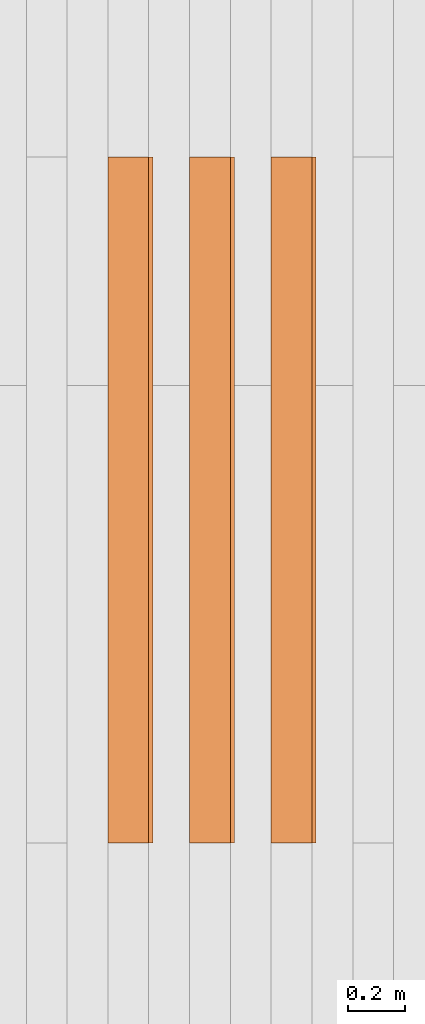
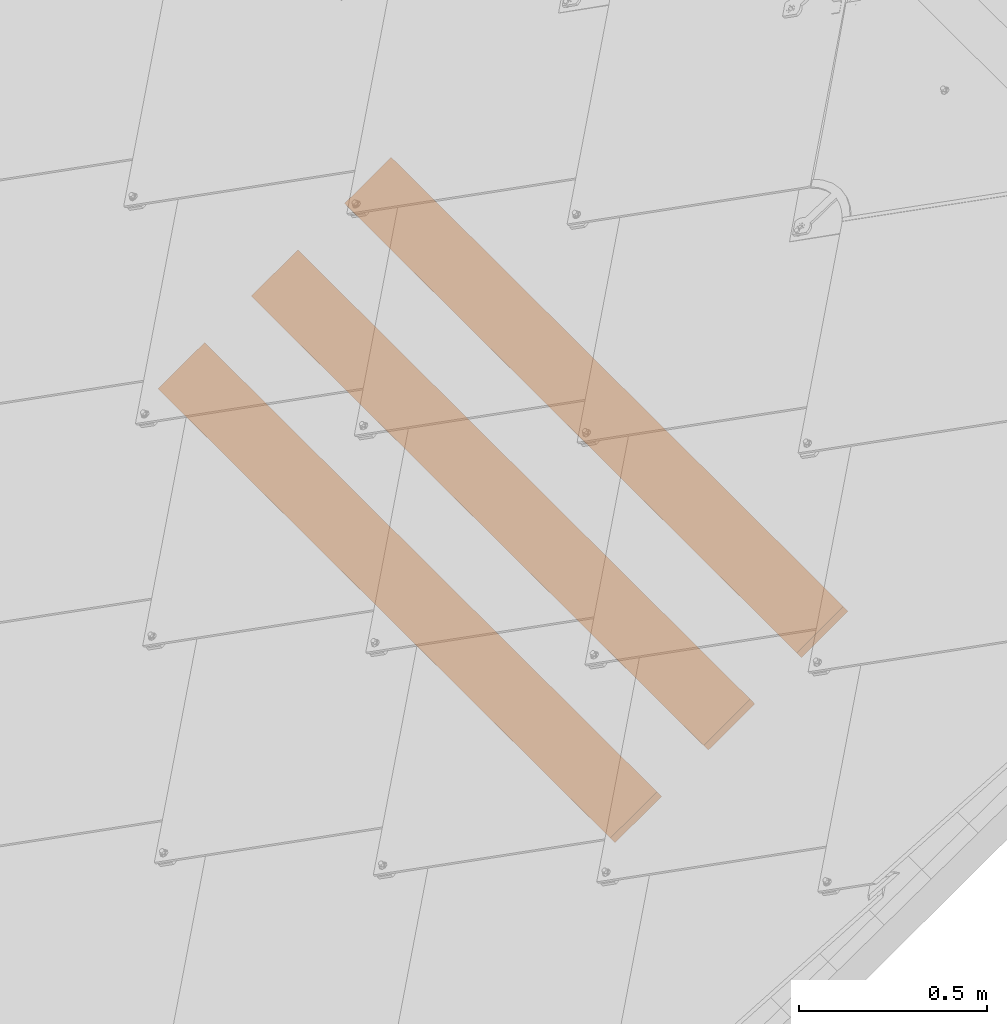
# One storey, part 30 of 151: 3 proxies, 1 element without a shape of its own.
"""IFC2X3 building model written with IfcOpenShell, lengths in millimetres."""

from ifc_helpers import new_model, entity, si_unit, converted_unit, derived_unit, direction, frame, frame_2d, origin, place, context, subcontext, project, spatial, rectangle, extrude, source, transform, mapped, material, type_object, type_shapes, element, aggregate, save


model = new_model("IFC2X3")

# Units and contexts
model_context = context("Model", 3, precision=0.01, world=origin(), true_north=direction((6.12303176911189e-17, 1.0)))
body_context = subcontext(model_context, "Body", "Model", "MODEL_VIEW")
ifc_project = project(units=[si_unit("LENGTHUNIT", "METRE", prefix="MILLI"), si_unit("AREAUNIT", "SQUARE_METRE"), si_unit("VOLUMEUNIT", "CUBIC_METRE"), converted_unit("PLANEANGLEUNIT", "DEGREE", entity("IfcRatioMeasure", 0.0174532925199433), si_unit("PLANEANGLEUNIT", "RADIAN"), dimensions=[0, 0, 0, 0, 0, 0, 0]), si_unit("MASSUNIT", "GRAM", prefix="KILO"), derived_unit("MASSDENSITYUNIT", [(si_unit("MASSUNIT", "GRAM", prefix="KILO"), 1), (si_unit("LENGTHUNIT", "METRE"), -3)]), si_unit("TIMEUNIT", "SECOND"), si_unit("FREQUENCYUNIT", "HERTZ"), si_unit("THERMODYNAMICTEMPERATUREUNIT", "DEGREE_CELSIUS"), derived_unit("THERMALTRANSMITTANCEUNIT", [(si_unit("MASSUNIT", "GRAM", prefix="KILO"), 1), (si_unit("THERMODYNAMICTEMPERATUREUNIT", "KELVIN"), -1), (si_unit("TIMEUNIT", "SECOND"), -3)]), derived_unit("VOLUMETRICFLOWRATEUNIT", [(si_unit("LENGTHUNIT", "METRE"), 3), (si_unit("TIMEUNIT", "SECOND"), -1)]), si_unit("ELECTRICCURRENTUNIT", "AMPERE"), si_unit("ELECTRICVOLTAGEUNIT", "VOLT"), si_unit("POWERUNIT", "WATT"), si_unit("FORCEUNIT", "NEWTON", prefix="KILO"), si_unit("ILLUMINANCEUNIT", "LUX"), si_unit("LUMINOUSFLUXUNIT", "LUMEN"), si_unit("LUMINOUSINTENSITYUNIT", "CANDELA"), derived_unit("USERDEFINED", [(si_unit("MASSUNIT", "GRAM", prefix="KILO"), -1), (si_unit("LENGTHUNIT", "METRE"), -2), (si_unit("TIMEUNIT", "SECOND"), 3), (si_unit("LUMINOUSFLUXUNIT", "LUMEN"), 1)]), derived_unit("LINEARVELOCITYUNIT", [(si_unit("LENGTHUNIT", "METRE"), 1), (si_unit("TIMEUNIT", "SECOND"), -1)]), si_unit("PRESSUREUNIT", "PASCAL"), derived_unit("USERDEFINED", [(si_unit("LENGTHUNIT", "METRE"), -2), (si_unit("MASSUNIT", "GRAM", prefix="KILO"), 1), (si_unit("TIMEUNIT", "SECOND"), -2)])], contexts=[model_context])

# Site, building, storey
site_placement = place(None, origin())
site = spatial("IfcSite", under=ifc_project, at=site_placement, Name="Default", CompositionType="ELEMENT")
building_placement = place(site_placement, origin())
building = spatial("IfcBuilding", under=site, at=building_placement, CompositionType="ELEMENT")
storey_placement = place(building_placement, origin())
storey = spatial("IfcBuildingStorey", under=building, at=storey_placement, Name="Level 1", CompositionType="ELEMENT", Elevation=0.0)

# Assembly, proxies
assembly_placement = place(storey_placement, origin())
assembly = element("IfcElementAssembly", 1, at=assembly_placement, inside=storey, Name="Structural Framing Assembly:Roof Construction Assembly", ObjectType="Structural Framing Assembly:Roof Construction Assembly", AssemblyPlace="NOTDEFINED", PredefinedType="USERDEFINED")
ifc_material = material(Name="Wood - Generic - Wood For Showcase")
building_element_proxy_type_1 = type_object("IfcBuildingElementProxyType", Name="Structural Framing 15", PredefinedType="NOTDEFINED", material=ifc_material)
shared_shape_1 = source(origin(), body_context, "Body", "SweptSolid", [
    extrude(rectangle(XDim=24.9999999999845, YDim=174.344679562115, at=frame_2d((-1.77635683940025e-13, -4.54747350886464e-13), x_axis=(0.0, 1.0))), frame((1128.20180147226, 1525.55080214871, 2760.23940055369), z_axis=(0.0, 1.0, 0.0), x_axis=(-0.819152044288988, 0.0, -0.573576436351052)), (0.0, 0.0, 1.0), 2400.0),
])
type_shapes(building_element_proxy_type_1, [shared_shape_1])
proxy_1_placement = place(assembly_placement, frame((-1370.66013563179, -4870.0, -1000.0)))
proxy_1 = element("IfcBuildingElementProxy", 2, at=proxy_1_placement, type_object=building_element_proxy_type_1, material=ifc_material, Name="Structural Framing 67:Structural Framing 15", ObjectType="Structural Framing 67:Structural Framing 15", context=body_context, shape_type="MappedRepresentation", body=[
    mapped(shared_shape_1, transform((0.0, 0.0, 0.0), scale=1.0)),
])
building_element_proxy_type_2 = type_object("IfcBuildingElementProxyType", Name="Structural Framing 15", PredefinedType="NOTDEFINED", material=ifc_material)
shared_shape_2 = source(origin(), body_context, "Body", "SweptSolid", [
    extrude(rectangle(XDim=24.9999999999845, YDim=174.344679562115, at=frame_2d((-1.77635683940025e-13, -4.54747350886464e-13), x_axis=(0.0, 1.0))), frame((1128.20180147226, 1525.55080214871, 2760.23940055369), z_axis=(0.0, 1.0, 0.0), x_axis=(-0.819152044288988, 0.0, -0.573576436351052)), (0.0, 0.0, 1.0), 2400.0),
])
type_shapes(building_element_proxy_type_2, [shared_shape_2])
proxy_2_placement = place(assembly_placement, frame((-1656.28973698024, -4870.0, -1200.0)))
proxy_2 = element("IfcBuildingElementProxy", 3, at=proxy_2_placement, type_object=building_element_proxy_type_2, material=ifc_material, Name="Structural Framing 77:Structural Framing 15", ObjectType="Structural Framing 77:Structural Framing 15", context=body_context, shape_type="MappedRepresentation", body=[
    mapped(shared_shape_2, transform((0.0, 0.0, 0.0), scale=1.0)),
])
building_element_proxy_type_3 = type_object("IfcBuildingElementProxyType", Name="Structural Framing 15", PredefinedType="NOTDEFINED", material=ifc_material)
shared_shape_3 = source(origin(), body_context, "Body", "SweptSolid", [
    extrude(rectangle(XDim=24.9999999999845, YDim=174.344679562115, at=frame_2d((-1.77635683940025e-13, -4.54747350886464e-13), x_axis=(0.0, 1.0))), frame((1128.20180147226, 1525.55080214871, 2760.23940055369), z_axis=(0.0, 1.0, 0.0), x_axis=(-0.819152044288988, 0.0, -0.573576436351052)), (0.0, 0.0, 1.0), 2400.0),
])
type_shapes(building_element_proxy_type_3, [shared_shape_3])
proxy_3_placement = place(assembly_placement, frame((-1941.91933832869, -4870.0, -1400.0)))
proxy_3 = element("IfcBuildingElementProxy", 4, at=proxy_3_placement, type_object=building_element_proxy_type_3, material=ifc_material, Name="Structural Framing 87:Structural Framing 15", ObjectType="Structural Framing 87:Structural Framing 15", context=body_context, shape_type="MappedRepresentation", body=[
    mapped(shared_shape_3, transform((0.0, 0.0, 0.0), scale=1.0)),
])
aggregate(assembly, [proxy_1, proxy_2, proxy_3])

save(model, "model.ifc")
